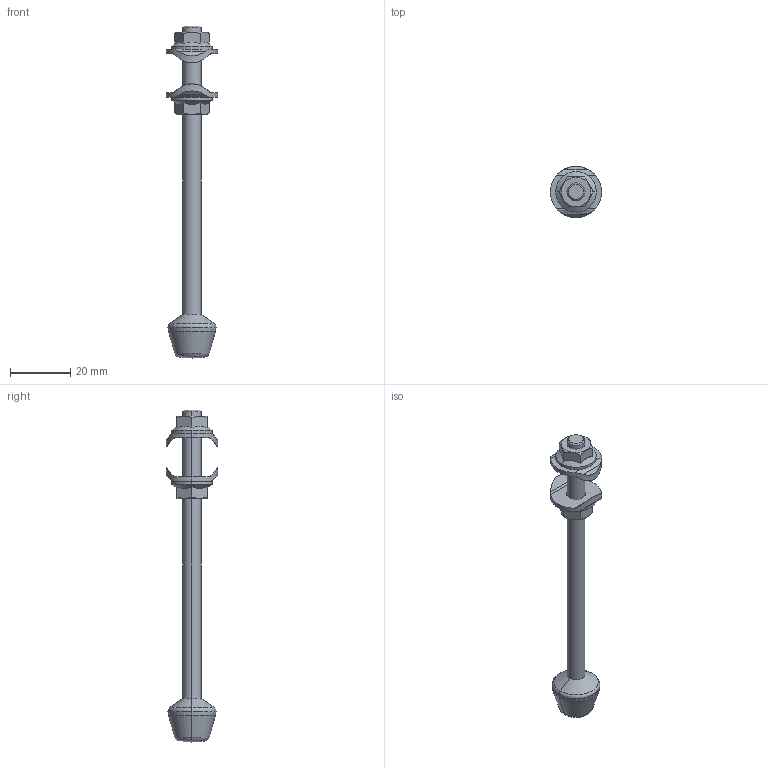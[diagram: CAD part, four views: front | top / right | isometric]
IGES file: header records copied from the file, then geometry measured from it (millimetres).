
Start section: 3D InterOp IGES (v. 2020 1.0.1), Spatial Corp. Copyright (c) 1999-2017.
Global section: file name: 911-2-c1.igs; native system: Spatial Corp.; preprocessor: 3D InterOp ACIS/IGES; author: TraceParts; organization: TraceParts S.A.; date: 20231201.114948; units: millimetre
Bounding box: 17 x 17 x 110.5 mm (x, y, z)
Surface area: 4701.3 mm2 (no closed solid volume)
Topology: 0 solids, 0 shells, 87 faces, 434 edges, 432 vertices
Faces by surface type: revolution 58, extrusion 29
